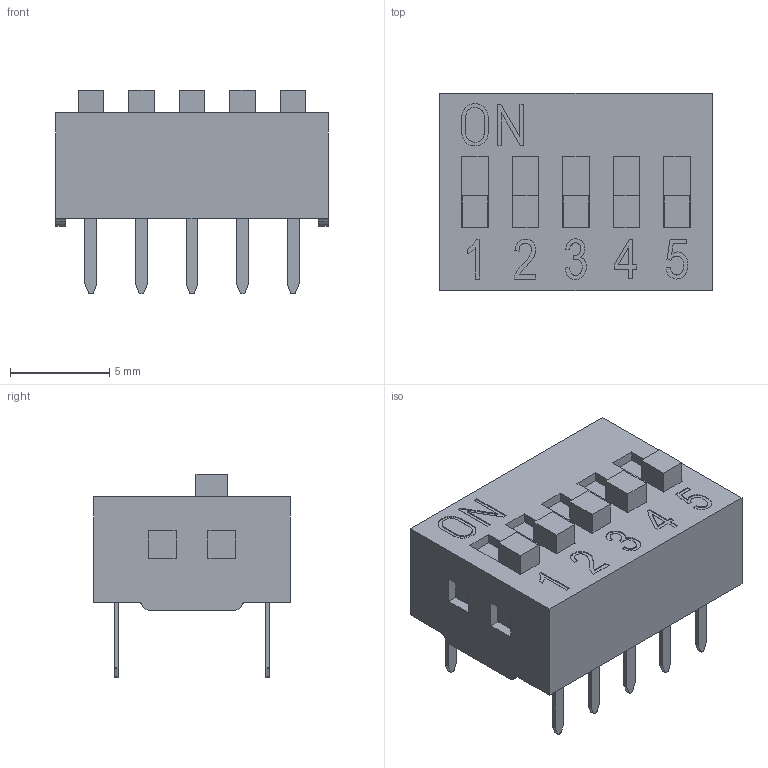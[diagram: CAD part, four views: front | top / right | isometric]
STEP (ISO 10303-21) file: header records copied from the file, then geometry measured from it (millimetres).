
FILE_DESCRIPTION(('FreeCAD Model'),'2;1');
FILE_NAME('C:/Users/Metaltex-99/Desktop/DS-05.stp','2020-08-11T08:47:35' ,('Engenharia Metaltex'),('Metaltex'), 'Open CASCADE STEP processor 7.3','FreeCAD','Unknown');
FILE_SCHEMA(('AUTOMOTIVE_DESIGN { 1 0 10303 214 1 1 1 1 }'));
Length unit declared in the file: millimetre
Products named in the file (1): DS-05
Bounding box: 13.7 x 9.9 x 10.25 mm (x, y, z)
Surface area: 1558.6 mm2 (no closed solid volume)
Topology: 0 solids, 17 shells, 409 faces, 1053 edges, 702 vertices
Faces by surface type: plane 318, cylinder 48, bspline 43
Entity records: 26583 total; most frequent: CARTESIAN_POINT 5642, DIRECTION 3643, LINE 2709, VECTOR 2709, ORIENTED_EDGE 2106, PCURVE 2106, DEFINITIONAL_REPRESENTATION 2106, EDGE_CURVE 1053
